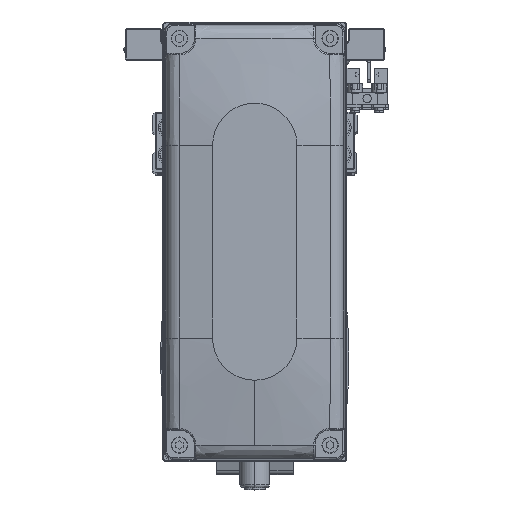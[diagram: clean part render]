
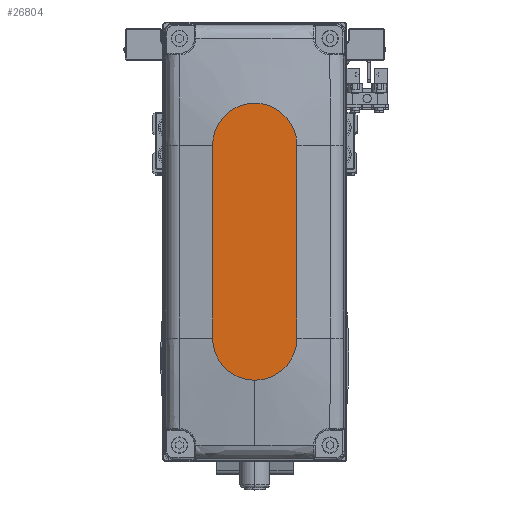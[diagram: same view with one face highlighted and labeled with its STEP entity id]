
A CAD part, top view. The second image highlights one B-rep face of the part: STEP entity #26804.
In plain terms, the highlighted planar face has unit normal (0, 0, 1).
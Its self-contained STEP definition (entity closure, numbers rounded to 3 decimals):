
#60 = LINE ( 'NONE', #14088, #16732 ) ;
#1557 = VERTEX_POINT ( 'NONE', #39209 ) ;
#2070 = EDGE_CURVE ( 'NONE', #1557, #4679, #32311, .T. ) ;
#2480 = DIRECTION ( 'NONE',  ( 0., 0., 1. ) ) ;
#2941 = CARTESIAN_POINT ( 'NONE',  ( 46., 0., 35. ) ) ;
#3695 = AXIS2_PLACEMENT_3D ( 'NONE', #33975, #2480, #16509 ) ;
#4679 = VERTEX_POINT ( 'NONE', #18954 ) ;
#5801 = CARTESIAN_POINT ( 'NONE',  ( 32., 14., 35. ) ) ;
#5934 = FACE_OUTER_BOUND ( 'NONE', #39021, .T. ) ;
#6261 = EDGE_CURVE ( 'NONE', #26848, #15776, #8227, .T. ) ;
#8227 = CIRCLE ( 'NONE', #33929, 14. ) ;
#8341 = DIRECTION ( 'NONE',  ( 0., 0., 1. ) ) ;
#10365 = ORIENTED_EDGE ( 'NONE', *, *, #2070, .T. ) ;
#10491 = CARTESIAN_POINT ( 'NONE',  ( 32., 0., 35. ) ) ;
#10839 = DIRECTION ( 'NONE',  ( 1., 0., 0. ) ) ;
#12490 = AXIS2_PLACEMENT_3D ( 'NONE', #39840, #8341, #22379 ) ;
#12587 = LINE ( 'NONE', #26635, #45314 ) ;
#12768 = CIRCLE ( 'NONE', #38477, 14. ) ;
#14088 = CARTESIAN_POINT ( 'NONE',  ( -32., -14., 35. ) ) ;
#15776 = VERTEX_POINT ( 'NONE', #5801 ) ;
#16509 = DIRECTION ( 'NONE',  ( 1., 0., 0. ) ) ;
#16732 = VECTOR ( 'NONE', #28136, 1000. ) ;
#17900 = ORIENTED_EDGE ( 'NONE', *, *, #25698, .T. ) ;
#18954 = CARTESIAN_POINT ( 'NONE',  ( -32., -14., 35. ) ) ;
#19955 = PLANE ( 'NONE',  #3695 ) ;
#20824 = EDGE_CURVE ( 'NONE', #15776, #1557, #12587, .T. ) ;
#22379 = DIRECTION ( 'NONE',  ( 1., 0., 0. ) ) ;
#22633 = CARTESIAN_POINT ( 'NONE',  ( 32., -14., 35. ) ) ;
#24541 = DIRECTION ( 'NONE',  ( 0., 0., 1. ) ) ;
#25698 = EDGE_CURVE ( 'NONE', #33964, #26848, #12768, .T. ) ;
#26635 = CARTESIAN_POINT ( 'NONE',  ( -32., 14., 35. ) ) ;
#26804 = ADVANCED_FACE ( 'NONE', ( #5934 ), #19955, .T. ) ;
#26848 = VERTEX_POINT ( 'NONE', #2941 ) ;
#27267 = ORIENTED_EDGE ( 'NONE', *, *, #20824, .T. ) ;
#28136 = DIRECTION ( 'NONE',  ( 1., 0., 0. ) ) ;
#28339 = CARTESIAN_POINT ( 'NONE',  ( 32., 0., 35. ) ) ;
#30950 = ORIENTED_EDGE ( 'NONE', *, *, #6261, .T. ) ;
#32311 = CIRCLE ( 'NONE', #12490, 14. ) ;
#33929 = AXIS2_PLACEMENT_3D ( 'NONE', #28339, #42360, #10839 ) ;
#33964 = VERTEX_POINT ( 'NONE', #22633 ) ;
#33975 = CARTESIAN_POINT ( 'NONE',  ( 0., 0., 35. ) ) ;
#35218 = ORIENTED_EDGE ( 'NONE', *, *, #42398, .T. ) ;
#38477 = AXIS2_PLACEMENT_3D ( 'NONE', #10491, #24541, #38562 ) ;
#38562 = DIRECTION ( 'NONE',  ( 1., 0., 0. ) ) ;
#39021 = EDGE_LOOP ( 'NONE', ( #27267, #10365, #35218, #17900, #30950 ) ) ;
#39209 = CARTESIAN_POINT ( 'NONE',  ( -32., 14., 35. ) ) ;
#39840 = CARTESIAN_POINT ( 'NONE',  ( -32., 0., 35. ) ) ;
#40645 = DIRECTION ( 'NONE',  ( -1., 0., 0. ) ) ;
#42360 = DIRECTION ( 'NONE',  ( 0., 0., 1. ) ) ;
#42398 = EDGE_CURVE ( 'NONE', #4679, #33964, #60, .T. ) ;
#45314 = VECTOR ( 'NONE', #40645, 1000. ) ;
